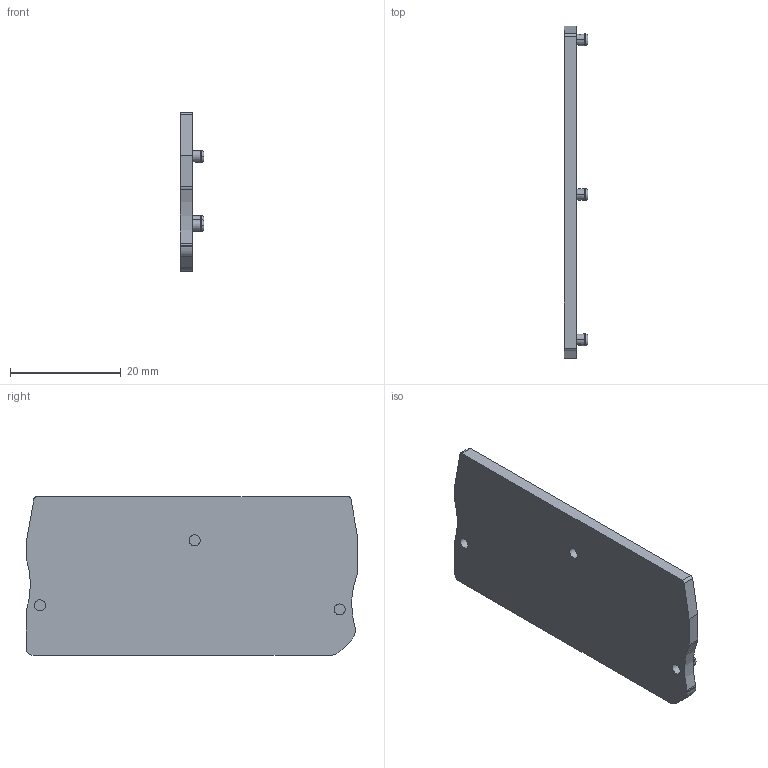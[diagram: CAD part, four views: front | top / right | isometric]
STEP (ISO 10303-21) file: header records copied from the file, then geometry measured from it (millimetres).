
FILE_DESCRIPTION(('Open CASCADE Model'),'2;1');
FILE_NAME('Open CASCADE Shape Model','2022-12-26T14:06:29',('Author'),( 'Open CASCADE'),'Open CASCADE STEP processor 6.5','Open CASCADE 6.5' ,'Unknown');
FILE_SCHEMA(('AUTOMOTIVE_DESIGN { 1 0 10303 214 1 1 1 1 }'));
Length unit declared in the file: millimetre
Products named in the file (79): CADSOFTTOOLS 1; CADSOFTTOOLS 1.1; CADSOFTTOOLS 1.2; CADSOFTTOOLS 1.3; CADSOFTTOOLS 1.4; CADSOFTTOOLS 1.5; CADSOFTTOOLS 1.6; CADSOFTTOOLS 1.7; CADSOFTTOOLS 1.8; CADSOFTTOOLS 1.9; CADSOFTTOOLS 1.10; CADSOFTTOOLS 1.11; CADSOFTTOOLS 1.12; CADSOFTTOOLS 1.13; CADSOFTTOOLS 1.14; CADSOFTTOOLS 1.15; CADSOFTTOOLS 1.16; CADSOFTTOOLS 1.17; CADSOFTTOOLS 1.18; CADSOFTTOOLS 1.19; CADSOFTTOOLS 1.20; CADSOFTTOOLS 1.21; CADSOFTTOOLS 1.22; CADSOFTTOOLS 1.23; CADSOFTTOOLS 1.24; CADSOFTTOOLS 1.25; CADSOFTTOOLS 1.26; CADSOFTTOOLS 1.27; CADSOFTTOOLS 1.28; CADSOFTTOOLS 1.29; CADSOFTTOOLS 1.30; CADSOFTTOOLS 1.31; CADSOFTTOOLS 1.32; CADSOFTTOOLS 1.33; CADSOFTTOOLS 1.34; CADSOFTTOOLS 1.35; CADSOFTTOOLS 1.36; CADSOFTTOOLS 1.37; CADSOFTTOOLS 1.38; CADSOFTTOOLS 1.39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
Assembly tree (78 placements, depth 2):
  CADSOFTTOOLS 1
    CADSOFTTOOLS 1.1
    CADSOFTTOOLS 1.2
    CADSOFTTOOLS 1.3
    CADSOFTTOOLS 1.4
    CADSOFTTOOLS 1.5
    CADSOFTTOOLS 1.6
    CADSOFTTOOLS 1.7
    CADSOFTTOOLS 1.8
    CADSOFTTOOLS 1.9
    CADSOFTTOOLS 1.10
    CADSOFTTOOLS 1.11
    CADSOFTTOOLS 1.12
    CADSOFTTOOLS 1.13
    CADSOFTTOOLS 1.14
    CADSOFTTOOLS 1.15
    CADSOFTTOOLS 1.16
    CADSOFTTOOLS 1.17
    CADSOFTTOOLS 1.18
    CADSOFTTOOLS 1.19
    CADSOFTTOOLS 1.20
    CADSOFTTOOLS 1.21
    CADSOFTTOOLS 1.22
    CADSOFTTOOLS 1.23
    CADSOFTTOOLS 1.24
    CADSOFTTOOLS 1.25
    CADSOFTTOOLS 1.26
    CADSOFTTOOLS 1.27
    CADSOFTTOOLS 1.28
    CADSOFTTOOLS 1.29
    CADSOFTTOOLS 1.30
    CADSOFTTOOLS 1.31
    CADSOFTTOOLS 1.32
    CADSOFTTOOLS 1.33
    CADSOFTTOOLS 1.34
    CADSOFTTOOLS 1.35
    CADSOFTTOOLS 1.36
    CADSOFTTOOLS 1.37
    CADSOFTTOOLS 1.38
    CADSOFTTOOLS 1.39
    CADSOFTTOOLS 1.40
    CADSOFTTOOLS 1.41
    CADSOFTTOOLS 1.42
    CADSOFTTOOLS 1.43
    CADSOFTTOOLS 1.44
    CADSOFTTOOLS 1.45
    CADSOFTTOOLS 1.46
    CADSOFTTOOLS 1.47
    CADSOFTTOOLS 1.48
    CADSOFTTOOLS 1.49
    CADSOFTTOOLS 1.50
    CADSOFTTOOLS 1.51
    CADSOFTTOOLS 1.52
    CADSOFTTOOLS 1.53
    CADSOFTTOOLS 1.54
    CADSOFTTOOLS 1.55
    CADSOFTTOOLS 1.56
    CADSOFTTOOLS 1.57
    CADSOFTTOOLS 1.58
    CADSOFTTOOLS 1.59
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Bounding box: 4.3 x 60.05 x 28.7 mm (x, y, z)
Surface area: 3831.1 mm2 (no closed solid volume)
Topology: 0 solids, 78 shells, 78 faces, 390 edges, 386 vertices
Faces by surface type: plane 25, cylinder 23, cone 12, bspline 10, torus 8
Full cylindrical faces by diameter (mm): 2 x4
Entity records: 11686 total; most frequent: CARTESIAN_POINT 5398, DIRECTION 993, ORIENTED_EDGE 394, PCURVE 394, DEFINITIONAL_REPRESENTATION 394, EDGE_CURVE 390, VERTEX_POINT 386, SURFACE_CURVE 386
